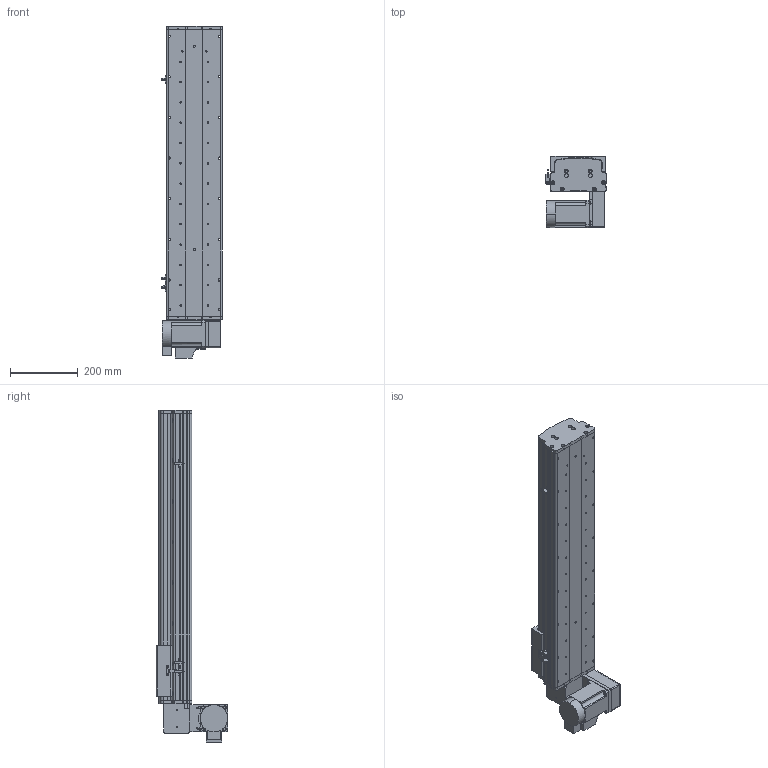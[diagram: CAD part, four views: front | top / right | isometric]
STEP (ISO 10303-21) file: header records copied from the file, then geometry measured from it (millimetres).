
FILE_DESCRIPTION (( 'STEP AP214' ), '1' );
FILE_NAME ('KSD165B-S600-MRD-CM .STEP', '2017-10-16T09:23:51', ( '微软用户' ), ( '微软中国' ), 'SwSTEP 2.0', 'SolidWorks 2014', '' );
FILE_SCHEMA (( 'AUTOMOTIVE_DESIGN' ));
Length unit declared in the file: millimetre
Products named in the file (17): 130宽模组保护罩上下左右折-同步带; HTPA26S5M250-A-H8 750W萇儂蚚; HTPA26S5M250-A-H8 400W萇儂蚚 ; KSD165模组-同步带防尘盖1-600行程-最新版; KSD165模组同步带底板-600行程-最新; 拸秶雄ん750W侜督萇儂; 165宽马达安装板同步带右; U倰嫖萇假蚾璃; U倰嫖萇EEㄜSX672; 覜茼え68遵圉猾敕; KSD165模组-同步带-防撞垫2; KSD165模组同步带-防撞垫1; KSD165耀郪-ヶ傷啣1-肮祭湍; KSD165模组-后端板1-同步带; KSD165模组-同步带滑动座-最新版; KSD165B-S600-MRD-CM ; 130宽模组马达安装板连板上下折丝杆同步带
Assembly tree (20 placements, depth 2):
  KSD165B-S600-MRD-CM 
    KSD165模组-同步带滑动座-最新版
    KSD165模组-后端板1-同步带
    KSD165耀郪-ヶ傷啣1-肮祭湍
    KSD165模组同步带-防撞垫1
    KSD165模组-同步带-防撞垫2
    覜茼え68遵圉猾敕
    U倰嫖萇EEㄜSX672  x3
    U倰嫖萇假蚾璃  x3
    165宽马达安装板同步带右
    拸秶雄ん750W侜督萇儂
    KSD165模组同步带底板-600行程-最新
    KSD165模组-同步带防尘盖1-600行程-最新版
    HTPA26S5M250-A-H8 400W萇儂蚚 
    HTPA26S5M250-A-H8 750W萇儂蚚
    130宽模组保护罩上下左右折-同步带
    130宽模组马达安装板连板上下折丝杆同步带
Bounding box: 178.7 x 210 x 980.5 mm (x, y, z)
Volume: 6109509.1 mm3; surface area: 1416574 mm2
Topology: 21 solids, 21 shells, 1917 faces, 5406 edges, 3528 vertices
Faces by surface type: cylinder 1223, plane 582, cone 112
Entity records: 61820 total; most frequent: CARTESIAN_POINT 12688, DIRECTION 10194, ORIENTED_EDGE 9472, EDGE_CURVE 4736, AXIS2_PLACEMENT_3D 3992, VERTEX_POINT 3120, CIRCLE 2272, VECTOR 2210
